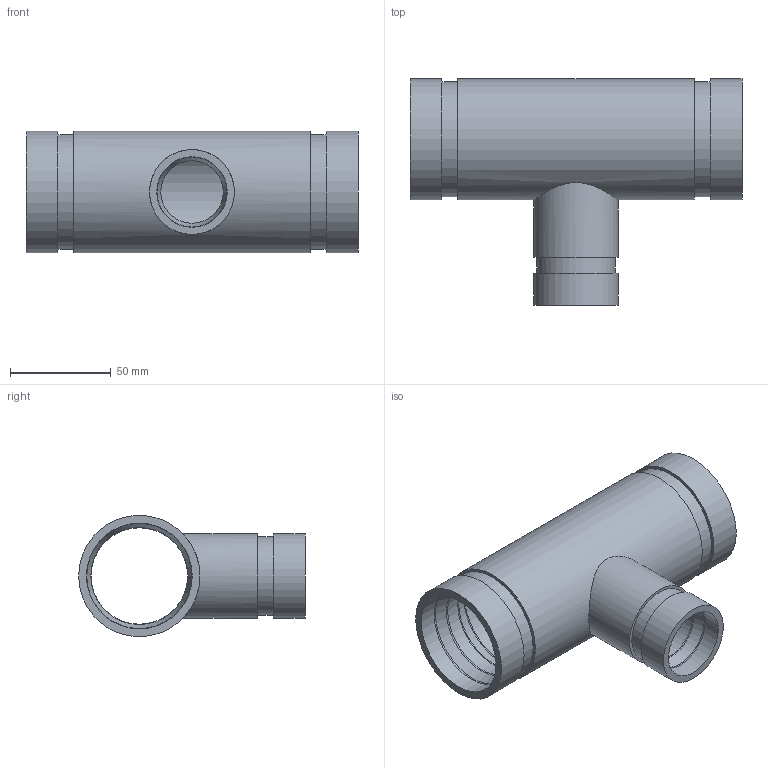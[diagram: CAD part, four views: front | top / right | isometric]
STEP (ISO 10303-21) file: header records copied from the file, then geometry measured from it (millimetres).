
FILE_DESCRIPTION(/* description */ ('VIC REDUCING TEE No 425H-SS','CAx-IF Rec.Pracs.---Representation and Presentation of Product Manufacturing Information (PMI)---4.0---2014-10-13'),/* implementation_level */ '2;1');
FILE_NAME(/* name */ 'C:\Users\kkamble\AppData\Roaming\Autodesk\ApplicationPlugins\Back Up\Victaulic_SS-OGS_Tee Reducing_Sched 40S_No 425H SS (OGS)\Victaulic_SS-OGS_Tee Reducing_Sched 40S_No 425H SS (OGS)_02.0x01.25 (50x32).stp',/* time_stamp */ '2020-08-27T17:19:27+06:00',/* author */ ('CORINNE GRAY'),/* organization */ ('Victaulic'),/* preprocessor_version */ 'ST-DEVELOPER v17.2',/* originating_system */ 'Autodesk Inventor 2019',/* authorisation */ '');
FILE_SCHEMA (('AP242_MANAGED_MODEL_BASED_3D_ENGINEERING_MIM_LF { 1 0 10303 442 1 1 4 }'));
Length unit declared in the file: inch
Products named in the file (1): 425H SS-02.0x01.25
Bounding box: 165.1 x 112.71 x 60.33 mm (x, y, z)
Volume: 140617.8 mm3; surface area: 72920.7 mm2
Topology: 1 solids, 1 shells, 43 faces, 134 edges, 100 vertices
Faces by surface type: cylinder 16, torus 12, plane 9, cone 6
Full cylindrical faces by diameter (mm): 31.115 x1, 35.052 x2, 38.989 x1, 42.164 x2, 48.006 x2, 52.578 x3, 57.15 x2, 60.325 x3
Entity records: 1911 total; most frequent: CARTESIAN_POINT 419, DIRECTION 352, ORIENTED_EDGE 268, AXIS2_PLACEMENT_3D 165, EDGE_CURVE 134, CIRCLE 108, VERTEX_POINT 100, EDGE_LOOP 54
